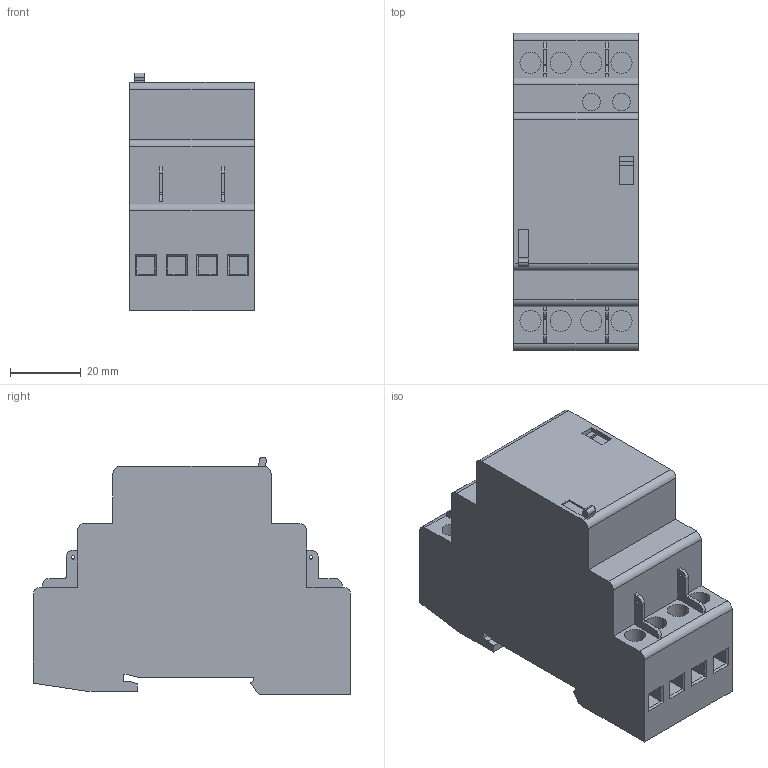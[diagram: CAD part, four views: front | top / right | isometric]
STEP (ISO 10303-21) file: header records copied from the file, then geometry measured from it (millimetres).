
FILE_DESCRIPTION (( 'STEP AP214' ), '1' );
FILE_NAME ('RBC32.STEP', '2024-04-15T08:59:37', ( '' ), ( '' ), 'SwSTEP 2.0', 'SolidWorks 2022', '' );
FILE_SCHEMA (( 'AUTOMOTIVE_DESIGN' ));
Length unit declared in the file: millimetre
Products named in the file (1): RBC32
Bounding box: 35.2 x 90 x 67.43 mm (x, y, z)
Volume: 150872.9 mm3; surface area: 24200 mm2
Topology: 1 solids, 1 shells, 218 faces, 543 edges, 348 vertices
Faces by surface type: plane 169, cylinder 49
Entity records: 6584 total; most frequent: CARTESIAN_POINT 1110, ORIENTED_EDGE 1086, DIRECTION 1081, EDGE_CURVE 543, VECTOR 443, LINE 443, VERTEX_POINT 348, AXIS2_PLACEMENT_3D 319
